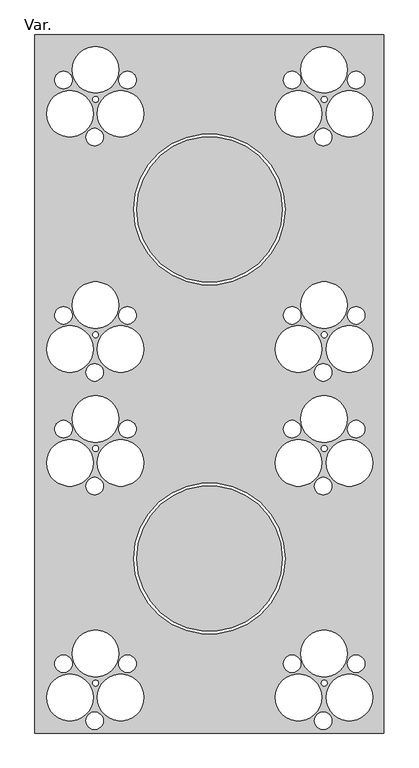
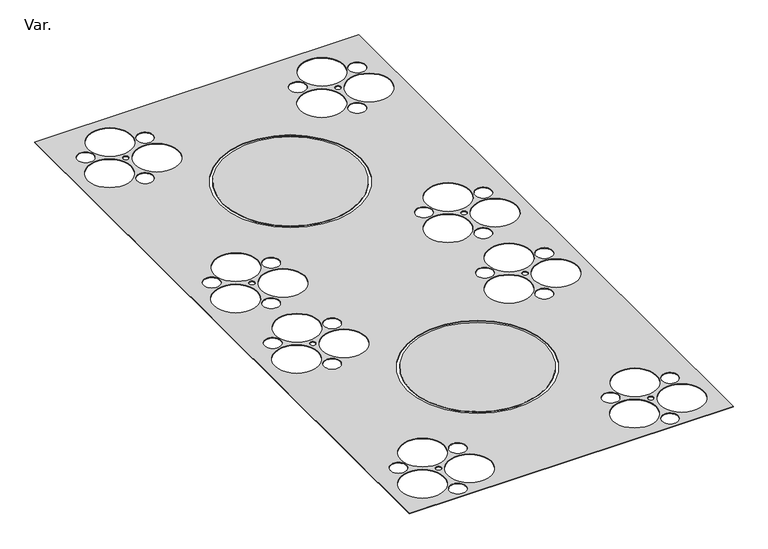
"""IFC4 building model written with IfcOpenShell, lengths in millimetres: proxy geometry, PavcoWavin_EquiposMecánicos_AquaCellNG : Var.."""

from ifc_helpers import new_model, si_unit, point, frame, frame_2d, origin, place, context, project, spatial, polyline, circle_curve, trimmed, segment, composite_curve, outline, extrude, source, transform, mapped, element, save


def var_9defbf0c(model_context):
    return source(origin(), model_context, "Body", "SweptSolid", [
        extrude(outline(polyline([(300.0, -600.0), (-300.0, -600.0), (-300.0, 600.0), (300.0, 600.0), (300.0, -600.0)]), holes=[composite_curve([segment(trimmed(circle_curve(frame_2d((-240.0, -538.8131351)), 40.0), [point((-280.0, -538.8131351))], [point((-200.0, -538.8131351))], True, "CARTESIAN"), True, "CONTINUOUS"), segment(trimmed(circle_curve(frame_2d((-240.0, -538.8131351)), 40.0), [point((-200.0, -538.8131351))], [point((-280.0, -538.8131351))], True, "CARTESIAN"), True, "CONTINUOUS")], self_intersect=False), composite_curve([segment(trimmed(circle_curve(frame_2d((-195.8861149, -463.2809715)), 40.0), [point((-235.8861149, -463.2809715))], [point((-155.8861149, -463.2809715))], True, "CARTESIAN"), True, "CONTINUOUS"), segment(trimmed(circle_curve(frame_2d((-195.8861149, -463.2809715)), 40.0), [point((-155.8861149, -463.2809715))], [point((-235.8861149, -463.2809715))], True, "CARTESIAN"), True, "CONTINUOUS")], self_intersect=False), composite_curve([segment(trimmed(circle_curve(frame_2d((-195.737496, -514.1421926)), 5.0), [point((-200.737496, -514.1421926))], [point((-190.737496, -514.1421926))], True, "CARTESIAN"), True, "CONTINUOUS"), segment(trimmed(circle_curve(frame_2d((-195.737496, -514.1421926)), 5.0), [point((-190.737496, -514.1421926))], [point((-200.737496, -514.1421926))], True, "CARTESIAN"), True, "CONTINUOUS")], self_intersect=False), composite_curve([segment(trimmed(circle_curve(frame_2d((152.9104182, -538.8131351)), 40.0), [point((112.9104182, -538.8131351))], [point((192.9104182, -538.8131351))], True, "CARTESIAN"), True, "CONTINUOUS"), segment(trimmed(circle_curve(frame_2d((152.9104182, -538.8131351)), 40.0), [point((192.9104182, -538.8131351))], [point((112.9104182, -538.8131351))], True, "CARTESIAN"), True, "CONTINUOUS")], self_intersect=False), composite_curve([segment(trimmed(circle_curve(frame_2d((197.0243033, -463.2809715)), 40.0), [point((157.0243033, -463.2809715))], [point((237.0243033, -463.2809715))], True, "CARTESIAN"), True, "CONTINUOUS"), segment(trimmed(circle_curve(frame_2d((197.0243033, -463.2809715)), 40.0), [point((237.0243033, -463.2809715))], [point((157.0243033, -463.2809715))], True, "CARTESIAN"), True, "CONTINUOUS")], self_intersect=False), composite_curve([segment(trimmed(circle_curve(frame_2d((197.1729222, -514.1421926)), 5.0), [point((192.1729222, -514.1421926))], [point((202.1729222, -514.1421926))], True, "CARTESIAN"), True, "CONTINUOUS"), segment(trimmed(circle_curve(frame_2d((197.1729222, -514.1421926)), 5.0), [point((202.1729222, -514.1421926))], [point((192.1729222, -514.1421926))], True, "CARTESIAN"), True, "CONTINUOUS")], self_intersect=False), composite_curve([segment(trimmed(circle_curve(frame_2d((-240.0, 464.4678365)), 40.0), [point((-280.0, 464.4678365))], [point((-200.0, 464.4678365))], True, "CARTESIAN"), True, "CONTINUOUS"), segment(trimmed(circle_curve(frame_2d((-240.0, 464.4678365)), 40.0), [point((-200.0, 464.4678365))], [point((-280.0, 464.4678365))], True, "CARTESIAN"), True, "CONTINUOUS")], self_intersect=False), composite_curve([segment(trimmed(circle_curve(frame_2d((-195.8861149, 540.0)), 40.0), [point((-235.8861149, 540.0))], [point((-155.8861149, 540.0))], True, "CARTESIAN"), True, "CONTINUOUS"), segment(trimmed(circle_curve(frame_2d((-195.8861149, 540.0)), 40.0), [point((-155.8861149, 540.0))], [point((-235.8861149, 540.0))], True, "CARTESIAN"), True, "CONTINUOUS")], self_intersect=False), composite_curve([segment(trimmed(circle_curve(frame_2d((-250.8207697, 522.4726436)), 15.0), [point((-265.8207697, 522.4726436))], [point((-235.8207697, 522.4726436))], True, "CARTESIAN"), True, "CONTINUOUS"), segment(trimmed(circle_curve(frame_2d((-250.8207697, 522.4726436)), 15.0), [point((-235.8207697, 522.4726436))], [point((-265.8207697, 522.4726436))], True, "CARTESIAN"), True, "CONTINUOUS")], self_intersect=False), composite_curve([segment(trimmed(circle_curve(frame_2d((-197.4130998, 424.4080745)), 15.0), [point((-212.4130998, 424.4080745))], [point((-182.4130998, 424.4080745))], True, "CARTESIAN"), True, "CONTINUOUS"), segment(trimmed(circle_curve(frame_2d((-197.4130998, 424.4080745)), 15.0), [point((-182.4130998, 424.4080745))], [point((-212.4130998, 424.4080745))], True, "CARTESIAN"), True, "CONTINUOUS")], self_intersect=False), composite_curve([segment(trimmed(circle_curve(frame_2d((-195.737496, 489.138779)), 5.0), [point((-200.737496, 489.138779))], [point((-190.737496, 489.138779))], True, "CARTESIAN"), True, "CONTINUOUS"), segment(trimmed(circle_curve(frame_2d((-195.737496, 489.138779)), 5.0), [point((-190.737496, 489.138779))], [point((-200.737496, 489.138779))], True, "CARTESIAN"), True, "CONTINUOUS")], self_intersect=False), composite_curve([segment(trimmed(circle_curve(frame_2d((152.9104182, 464.4678365)), 40.0), [point((112.9104182, 464.4678365))], [point((192.9104182, 464.4678365))], True, "CARTESIAN"), True, "CONTINUOUS"), segment(trimmed(circle_curve(frame_2d((152.9104182, 464.4678365)), 40.0), [point((192.9104182, 464.4678365))], [point((112.9104182, 464.4678365))], True, "CARTESIAN"), True, "CONTINUOUS")], self_intersect=False), composite_curve([segment(trimmed(circle_curve(frame_2d((197.0243033, 540.0)), 40.0), [point((157.0243033, 540.0))], [point((237.0243033, 540.0))], True, "CARTESIAN"), True, "CONTINUOUS"), segment(trimmed(circle_curve(frame_2d((197.0243033, 540.0)), 40.0), [point((237.0243033, 540.0))], [point((157.0243033, 540.0))], True, "CARTESIAN"), True, "CONTINUOUS")], self_intersect=False), composite_curve([segment(trimmed(circle_curve(frame_2d((197.1729222, 489.138779)), 5.0), [point((192.1729222, 489.138779))], [point((202.1729222, 489.138779))], True, "CARTESIAN"), True, "CONTINUOUS"), segment(trimmed(circle_curve(frame_2d((197.1729222, 489.138779)), 5.0), [point((202.1729222, 489.138779))], [point((192.1729222, 489.138779))], True, "CARTESIAN"), True, "CONTINUOUS")], self_intersect=False), composite_curve([segment(trimmed(circle_curve(frame_2d((-240.0, 60.0)), 40.0), [point((-280.0, 60.0))], [point((-200.0, 60.0))], True, "CARTESIAN"), True, "CONTINUOUS"), segment(trimmed(circle_curve(frame_2d((-240.0, 60.0)), 40.0), [point((-200.0, 60.0))], [point((-280.0, 60.0))], True, "CARTESIAN"), True, "CONTINUOUS")], self_intersect=False), composite_curve([segment(trimmed(circle_curve(frame_2d((-195.8861149, 135.5321635)), 40.0), [point((-235.8861149, 135.5321635))], [point((-155.8861149, 135.5321635))], True, "CARTESIAN"), True, "CONTINUOUS"), segment(trimmed(circle_curve(frame_2d((-195.8861149, 135.5321635)), 40.0), [point((-155.8861149, 135.5321635))], [point((-235.8861149, 135.5321635))], True, "CARTESIAN"), True, "CONTINUOUS")], self_intersect=False), composite_curve([segment(trimmed(circle_curve(frame_2d((-195.737496, 84.6709425)), 5.0), [point((-200.737496, 84.6709425))], [point((-190.737496, 84.6709425))], True, "CARTESIAN"), True, "CONTINUOUS"), segment(trimmed(circle_curve(frame_2d((-195.737496, 84.6709425)), 5.0), [point((-190.737496, 84.6709425))], [point((-200.737496, 84.6709425))], True, "CARTESIAN"), True, "CONTINUOUS")], self_intersect=False), composite_curve([segment(trimmed(circle_curve(frame_2d((152.9104182, 60.0)), 40.0), [point((112.9104182, 60.0))], [point((192.9104182, 60.0))], True, "CARTESIAN"), True, "CONTINUOUS"), segment(trimmed(circle_curve(frame_2d((152.9104182, 60.0)), 40.0), [point((192.9104182, 60.0))], [point((112.9104182, 60.0))], True, "CARTESIAN"), True, "CONTINUOUS")], self_intersect=False), composite_curve([segment(trimmed(circle_curve(frame_2d((197.0243033, 135.5321635)), 40.0), [point((157.0243033, 135.5321635))], [point((237.0243033, 135.5321635))], True, "CARTESIAN"), True, "CONTINUOUS"), segment(trimmed(circle_curve(frame_2d((197.0243033, 135.5321635)), 40.0), [point((237.0243033, 135.5321635))], [point((157.0243033, 135.5321635))], True, "CARTESIAN"), True, "CONTINUOUS")], self_intersect=False), composite_curve([segment(trimmed(circle_curve(frame_2d((197.1729222, 84.6709425)), 5.0), [point((192.1729222, 84.6709425))], [point((202.1729222, 84.6709425))], True, "CARTESIAN"), True, "CONTINUOUS"), segment(trimmed(circle_curve(frame_2d((197.1729222, 84.6709425)), 5.0), [point((202.1729222, 84.6709425))], [point((192.1729222, 84.6709425))], True, "CARTESIAN"), True, "CONTINUOUS")], self_intersect=False), composite_curve([segment(trimmed(circle_curve(frame_2d((-240.0, -135.5321635)), 40.0), [point((-280.0, -135.5321635))], [point((-200.0, -135.5321635))], True, "CARTESIAN"), True, "CONTINUOUS"), segment(trimmed(circle_curve(frame_2d((-240.0, -135.5321635)), 40.0), [point((-200.0, -135.5321635))], [point((-280.0, -135.5321635))], True, "CARTESIAN"), True, "CONTINUOUS")], self_intersect=False), composite_curve([segment(trimmed(circle_curve(frame_2d((-195.8861149, -60.0)), 40.0), [point((-235.8861149, -60.0))], [point((-155.8861149, -60.0))], True, "CARTESIAN"), True, "CONTINUOUS"), segment(trimmed(circle_curve(frame_2d((-195.8861149, -60.0)), 40.0), [point((-155.8861149, -60.0))], [point((-235.8861149, -60.0))], True, "CARTESIAN"), True, "CONTINUOUS")], self_intersect=False), composite_curve([segment(trimmed(circle_curve(frame_2d((-195.737496, -110.861221)), 5.0), [point((-200.737496, -110.861221))], [point((-190.737496, -110.861221))], True, "CARTESIAN"), True, "CONTINUOUS"), segment(trimmed(circle_curve(frame_2d((-195.737496, -110.861221)), 5.0), [point((-190.737496, -110.861221))], [point((-200.737496, -110.861221))], True, "CARTESIAN"), True, "CONTINUOUS")], self_intersect=False), composite_curve([segment(trimmed(circle_curve(frame_2d((152.9104182, -135.5321635)), 40.0), [point((112.9104182, -135.5321635))], [point((192.9104182, -135.5321635))], True, "CARTESIAN"), True, "CONTINUOUS"), segment(trimmed(circle_curve(frame_2d((152.9104182, -135.5321635)), 40.0), [point((192.9104182, -135.5321635))], [point((112.9104182, -135.5321635))], True, "CARTESIAN"), True, "CONTINUOUS")], self_intersect=False), composite_curve([segment(trimmed(circle_curve(frame_2d((197.0243033, -60.0)), 40.0), [point((157.0243033, -60.0))], [point((237.0243033, -60.0))], True, "CARTESIAN"), True, "CONTINUOUS"), segment(trimmed(circle_curve(frame_2d((197.0243033, -60.0)), 40.0), [point((237.0243033, -60.0))], [point((157.0243033, -60.0))], True, "CARTESIAN"), True, "CONTINUOUS")], self_intersect=False), composite_curve([segment(trimmed(circle_curve(frame_2d((197.1729222, -110.861221)), 5.0), [point((192.1729222, -110.861221))], [point((202.1729222, -110.861221))], True, "CARTESIAN"), True, "CONTINUOUS"), segment(trimmed(circle_curve(frame_2d((197.1729222, -110.861221)), 5.0), [point((202.1729222, -110.861221))], [point((192.1729222, -110.861221))], True, "CARTESIAN"), True, "CONTINUOUS")], self_intersect=False), composite_curve([segment(trimmed(circle_curve(frame_2d((-140.8207697, 522.4726436)), 15.0), [point((-155.8207697, 522.4726436))], [point((-125.8207697, 522.4726436))], True, "CARTESIAN"), True, "CONTINUOUS"), segment(trimmed(circle_curve(frame_2d((-140.8207697, 522.4726436)), 15.0), [point((-125.8207697, 522.4726436))], [point((-155.8207697, 522.4726436))], True, "CARTESIAN"), True, "CONTINUOUS")], self_intersect=False), composite_curve([segment(trimmed(circle_curve(frame_2d((-152.5, 464.4678365)), 40.0), [point((-192.5, 464.4678365))], [point((-112.5, 464.4678365))], True, "CARTESIAN"), True, "CONTINUOUS"), segment(trimmed(circle_curve(frame_2d((-152.5, 464.4678365)), 40.0), [point((-112.5, 464.4678365))], [point((-192.5, 464.4678365))], True, "CARTESIAN"), True, "CONTINUOUS")], self_intersect=False), composite_curve([segment(trimmed(circle_curve(frame_2d((142.0896485, 522.4726436)), 15.0), [point((127.0896485, 522.4726436))], [point((157.0896485, 522.4726436))], True, "CARTESIAN"), True, "CONTINUOUS"), segment(trimmed(circle_curve(frame_2d((142.0896485, 522.4726436)), 15.0), [point((157.0896485, 522.4726436))], [point((127.0896485, 522.4726436))], True, "CARTESIAN"), True, "CONTINUOUS")], self_intersect=False), composite_curve([segment(trimmed(circle_curve(frame_2d((195.4973184, 424.4080745)), 15.0), [point((180.4973184, 424.4080745))], [point((210.4973184, 424.4080745))], True, "CARTESIAN"), True, "CONTINUOUS"), segment(trimmed(circle_curve(frame_2d((195.4973184, 424.4080745)), 15.0), [point((210.4973184, 424.4080745))], [point((180.4973184, 424.4080745))], True, "CARTESIAN"), True, "CONTINUOUS")], self_intersect=False), composite_curve([segment(trimmed(circle_curve(frame_2d((252.0896485, 522.4726436)), 15.0), [point((237.0896485, 522.4726436))], [point((267.0896485, 522.4726436))], True, "CARTESIAN"), True, "CONTINUOUS"), segment(trimmed(circle_curve(frame_2d((252.0896485, 522.4726436)), 15.0), [point((267.0896485, 522.4726436))], [point((237.0896485, 522.4726436))], True, "CARTESIAN"), True, "CONTINUOUS")], self_intersect=False), composite_curve([segment(trimmed(circle_curve(frame_2d((240.4104182, 464.4678365)), 40.0), [point((200.4104182, 464.4678365))], [point((280.4104182, 464.4678365))], True, "CARTESIAN"), True, "CONTINUOUS"), segment(trimmed(circle_curve(frame_2d((240.4104182, 464.4678365)), 40.0), [point((280.4104182, 464.4678365))], [point((200.4104182, 464.4678365))], True, "CARTESIAN"), True, "CONTINUOUS")], self_intersect=False), composite_curve([segment(trimmed(circle_curve(frame_2d((142.0896485, 118.0048072)), 15.0), [point((127.0896485, 118.0048072))], [point((157.0896485, 118.0048072))], True, "CARTESIAN"), True, "CONTINUOUS"), segment(trimmed(circle_curve(frame_2d((142.0896485, 118.0048072)), 15.0), [point((157.0896485, 118.0048072))], [point((127.0896485, 118.0048072))], True, "CARTESIAN"), True, "CONTINUOUS")], self_intersect=False), composite_curve([segment(trimmed(circle_curve(frame_2d((195.4973184, 19.940238)), 15.0), [point((180.4973184, 19.940238))], [point((210.4973184, 19.940238))], True, "CARTESIAN"), True, "CONTINUOUS"), segment(trimmed(circle_curve(frame_2d((195.4973184, 19.940238)), 15.0), [point((210.4973184, 19.940238))], [point((180.4973184, 19.940238))], True, "CARTESIAN"), True, "CONTINUOUS")], self_intersect=False), composite_curve([segment(trimmed(circle_curve(frame_2d((252.0896485, 118.0048072)), 15.0), [point((237.0896485, 118.0048072))], [point((267.0896485, 118.0048072))], True, "CARTESIAN"), True, "CONTINUOUS"), segment(trimmed(circle_curve(frame_2d((252.0896485, 118.0048072)), 15.0), [point((267.0896485, 118.0048072))], [point((237.0896485, 118.0048072))], True, "CARTESIAN"), True, "CONTINUOUS")], self_intersect=False), composite_curve([segment(trimmed(circle_curve(frame_2d((240.4104182, 60.0)), 40.0), [point((200.4104182, 60.0))], [point((280.4104182, 60.0))], True, "CARTESIAN"), True, "CONTINUOUS"), segment(trimmed(circle_curve(frame_2d((240.4104182, 60.0)), 40.0), [point((280.4104182, 60.0))], [point((200.4104182, 60.0))], True, "CARTESIAN"), True, "CONTINUOUS")], self_intersect=False), composite_curve([segment(trimmed(circle_curve(frame_2d((142.0896485, -77.5273564)), 15.0), [point((127.0896485, -77.5273564))], [point((157.0896485, -77.5273564))], True, "CARTESIAN"), True, "CONTINUOUS"), segment(trimmed(circle_curve(frame_2d((142.0896485, -77.5273564)), 15.0), [point((157.0896485, -77.5273564))], [point((127.0896485, -77.5273564))], True, "CARTESIAN"), True, "CONTINUOUS")], self_intersect=False), composite_curve([segment(trimmed(circle_curve(frame_2d((195.4973184, -175.5919255)), 15.0), [point((180.4973184, -175.5919255))], [point((210.4973184, -175.5919255))], True, "CARTESIAN"), True, "CONTINUOUS"), segment(trimmed(circle_curve(frame_2d((195.4973184, -175.5919255)), 15.0), [point((210.4973184, -175.5919255))], [point((180.4973184, -175.5919255))], True, "CARTESIAN"), True, "CONTINUOUS")], self_intersect=False), composite_curve([segment(trimmed(circle_curve(frame_2d((252.0896485, -77.5273564)), 15.0), [point((237.0896485, -77.5273564))], [point((267.0896485, -77.5273564))], True, "CARTESIAN"), True, "CONTINUOUS"), segment(trimmed(circle_curve(frame_2d((252.0896485, -77.5273564)), 15.0), [point((267.0896485, -77.5273564))], [point((237.0896485, -77.5273564))], True, "CARTESIAN"), True, "CONTINUOUS")], self_intersect=False), composite_curve([segment(trimmed(circle_curve(frame_2d((240.4104182, -135.5321635)), 40.0), [point((200.4104182, -135.5321635))], [point((280.4104182, -135.5321635))], True, "CARTESIAN"), True, "CONTINUOUS"), segment(trimmed(circle_curve(frame_2d((240.4104182, -135.5321635)), 40.0), [point((280.4104182, -135.5321635))], [point((200.4104182, -135.5321635))], True, "CARTESIAN"), True, "CONTINUOUS")], self_intersect=False), composite_curve([segment(trimmed(circle_curve(frame_2d((142.0896485, -480.8083279)), 15.0), [point((127.0896485, -480.8083279))], [point((157.0896485, -480.8083279))], True, "CARTESIAN"), True, "CONTINUOUS"), segment(trimmed(circle_curve(frame_2d((142.0896485, -480.8083279)), 15.0), [point((157.0896485, -480.8083279))], [point((127.0896485, -480.8083279))], True, "CARTESIAN"), True, "CONTINUOUS")], self_intersect=False), composite_curve([segment(trimmed(circle_curve(frame_2d((195.4973184, -578.872897)), 15.0), [point((180.4973184, -578.872897))], [point((210.4973184, -578.872897))], True, "CARTESIAN"), True, "CONTINUOUS"), segment(trimmed(circle_curve(frame_2d((195.4973184, -578.872897)), 15.0), [point((210.4973184, -578.872897))], [point((180.4973184, -578.872897))], True, "CARTESIAN"), True, "CONTINUOUS")], self_intersect=False), composite_curve([segment(trimmed(circle_curve(frame_2d((252.0896485, -480.8083279)), 15.0), [point((237.0896485, -480.8083279))], [point((267.0896485, -480.8083279))], True, "CARTESIAN"), True, "CONTINUOUS"), segment(trimmed(circle_curve(frame_2d((252.0896485, -480.8083279)), 15.0), [point((267.0896485, -480.8083279))], [point((237.0896485, -480.8083279))], True, "CARTESIAN"), True, "CONTINUOUS")], self_intersect=False), composite_curve([segment(trimmed(circle_curve(frame_2d((240.4104182, -538.8131351)), 40.0), [point((200.4104182, -538.8131351))], [point((280.4104182, -538.8131351))], True, "CARTESIAN"), True, "CONTINUOUS"), segment(trimmed(circle_curve(frame_2d((240.4104182, -538.8131351)), 40.0), [point((280.4104182, -538.8131351))], [point((200.4104182, -538.8131351))], True, "CARTESIAN"), True, "CONTINUOUS")], self_intersect=False), composite_curve([segment(trimmed(circle_curve(frame_2d((-250.8207697, -480.8083279)), 15.0), [point((-265.8207697, -480.8083279))], [point((-235.8207697, -480.8083279))], True, "CARTESIAN"), True, "CONTINUOUS"), segment(trimmed(circle_curve(frame_2d((-250.8207697, -480.8083279)), 15.0), [point((-235.8207697, -480.8083279))], [point((-265.8207697, -480.8083279))], True, "CARTESIAN"), True, "CONTINUOUS")], self_intersect=False), composite_curve([segment(trimmed(circle_curve(frame_2d((-197.4130998, -578.872897)), 15.0), [point((-212.4130998, -578.872897))], [point((-182.4130998, -578.872897))], True, "CARTESIAN"), True, "CONTINUOUS"), segment(trimmed(circle_curve(frame_2d((-197.4130998, -578.872897)), 15.0), [point((-182.4130998, -578.872897))], [point((-212.4130998, -578.872897))], True, "CARTESIAN"), True, "CONTINUOUS")], self_intersect=False), composite_curve([segment(trimmed(circle_curve(frame_2d((-140.8207697, -480.8083279)), 15.0), [point((-155.8207697, -480.8083279))], [point((-125.8207697, -480.8083279))], True, "CARTESIAN"), True, "CONTINUOUS"), segment(trimmed(circle_curve(frame_2d((-140.8207697, -480.8083279)), 15.0), [point((-125.8207697, -480.8083279))], [point((-155.8207697, -480.8083279))], True, "CARTESIAN"), True, "CONTINUOUS")], self_intersect=False), composite_curve([segment(trimmed(circle_curve(frame_2d((-152.5, -538.8131351)), 40.0), [point((-192.5, -538.8131351))], [point((-112.5, -538.8131351))], True, "CARTESIAN"), True, "CONTINUOUS"), segment(trimmed(circle_curve(frame_2d((-152.5, -538.8131351)), 40.0), [point((-112.5, -538.8131351))], [point((-192.5, -538.8131351))], True, "CARTESIAN"), True, "CONTINUOUS")], self_intersect=False), composite_curve([segment(trimmed(circle_curve(frame_2d((-250.8207697, -77.5273564)), 15.0), [point((-265.8207697, -77.5273564))], [point((-235.8207697, -77.5273564))], True, "CARTESIAN"), True, "CONTINUOUS"), segment(trimmed(circle_curve(frame_2d((-250.8207697, -77.5273564)), 15.0), [point((-235.8207697, -77.5273564))], [point((-265.8207697, -77.5273564))], True, "CARTESIAN"), True, "CONTINUOUS")], self_intersect=False), composite_curve([segment(trimmed(circle_curve(frame_2d((-197.4130998, -175.5919255)), 15.0), [point((-212.4130998, -175.5919255))], [point((-182.4130998, -175.5919255))], True, "CARTESIAN"), True, "CONTINUOUS"), segment(trimmed(circle_curve(frame_2d((-197.4130998, -175.5919255)), 15.0), [point((-182.4130998, -175.5919255))], [point((-212.4130998, -175.5919255))], True, "CARTESIAN"), True, "CONTINUOUS")], self_intersect=False), composite_curve([segment(trimmed(circle_curve(frame_2d((-140.8207697, -77.5273564)), 15.0), [point((-155.8207697, -77.5273564))], [point((-125.8207697, -77.5273564))], True, "CARTESIAN"), True, "CONTINUOUS"), segment(trimmed(circle_curve(frame_2d((-140.8207697, -77.5273564)), 15.0), [point((-125.8207697, -77.5273564))], [point((-155.8207697, -77.5273564))], True, "CARTESIAN"), True, "CONTINUOUS")], self_intersect=False), composite_curve([segment(trimmed(circle_curve(frame_2d((-152.5, -135.5321635)), 40.0), [point((-192.5, -135.5321635))], [point((-112.5, -135.5321635))], True, "CARTESIAN"), True, "CONTINUOUS"), segment(trimmed(circle_curve(frame_2d((-152.5, -135.5321635)), 40.0), [point((-112.5, -135.5321635))], [point((-192.5, -135.5321635))], True, "CARTESIAN"), True, "CONTINUOUS")], self_intersect=False), composite_curve([segment(trimmed(circle_curve(frame_2d((-250.8207697, 118.0048072)), 15.0), [point((-265.8207697, 118.0048072))], [point((-235.8207697, 118.0048072))], True, "CARTESIAN"), True, "CONTINUOUS"), segment(trimmed(circle_curve(frame_2d((-250.8207697, 118.0048072)), 15.0), [point((-235.8207697, 118.0048072))], [point((-265.8207697, 118.0048072))], True, "CARTESIAN"), True, "CONTINUOUS")], self_intersect=False), composite_curve([segment(trimmed(circle_curve(frame_2d((-197.4130998, 19.940238)), 15.0), [point((-212.4130998, 19.940238))], [point((-182.4130998, 19.940238))], True, "CARTESIAN"), True, "CONTINUOUS"), segment(trimmed(circle_curve(frame_2d((-197.4130998, 19.940238)), 15.0), [point((-182.4130998, 19.940238))], [point((-212.4130998, 19.940238))], True, "CARTESIAN"), True, "CONTINUOUS")], self_intersect=False), composite_curve([segment(trimmed(circle_curve(frame_2d((-140.8207697, 118.0048072)), 15.0), [point((-155.8207697, 118.0048072))], [point((-125.8207697, 118.0048072))], True, "CARTESIAN"), True, "CONTINUOUS"), segment(trimmed(circle_curve(frame_2d((-140.8207697, 118.0048072)), 15.0), [point((-125.8207697, 118.0048072))], [point((-155.8207697, 118.0048072))], True, "CARTESIAN"), True, "CONTINUOUS")], self_intersect=False), composite_curve([segment(trimmed(circle_curve(frame_2d((-152.5, 60.0)), 40.0), [point((-192.5, 60.0))], [point((-112.5, 60.0))], True, "CARTESIAN"), True, "CONTINUOUS"), segment(trimmed(circle_curve(frame_2d((-152.5, 60.0)), 40.0), [point((-112.5, 60.0))], [point((-192.5, 60.0))], True, "CARTESIAN"), True, "CONTINUOUS")], self_intersect=False), composite_curve([segment(trimmed(circle_curve(frame_2d((0.0, 300.0)), 130.0), [point((-130.0, 300.0))], [point((130.0, 300.0))], True, "CARTESIAN"), True, "CONTINUOUS"), segment(trimmed(circle_curve(frame_2d((0.0, 300.0)), 130.0), [point((130.0, 300.0))], [point((-130.0, 300.0))], True, "CARTESIAN"), True, "CONTINUOUS")], self_intersect=False), composite_curve([segment(trimmed(circle_curve(frame_2d((0.0, -300.0)), 130.0), [point((-130.0, -300.0))], [point((130.0, -300.0))], True, "CARTESIAN"), True, "CONTINUOUS"), segment(trimmed(circle_curve(frame_2d((0.0, -300.0)), 130.0), [point((130.0, -300.0))], [point((-130.0, -300.0))], True, "CARTESIAN"), True, "CONTINUOUS")], self_intersect=False)]), frame((0.0, 0.0, 399.0), z_axis=(0.0, 0.0, 1.0), x_axis=(1.0, 0.0, 0.0)), (0.0, 0.0, 1.0), 1.0),
        extrude(outline(composite_curve([segment(trimmed(circle_curve(frame_2d((0.0, 300.0)), 125.0), [point((-125.0, 300.0))], [point((125.0, 300.0))], False, "CARTESIAN"), True, "CONTINUOUS"), segment(trimmed(circle_curve(frame_2d((0.0, 300.0)), 125.0), [point((125.0, 300.0))], [point((-125.0, 300.0))], False, "CARTESIAN"), True, "CONTINUOUS")], self_intersect=False)), frame((0.0, 0.0, 399.0), z_axis=(0.0, 0.0, 1.0), x_axis=(1.0, 0.0, 0.0)), (0.0, 0.0, 1.0), 1.0),
        extrude(outline(composite_curve([segment(trimmed(circle_curve(frame_2d((0.0, -300.0)), 125.0), [point((-125.0, -300.0))], [point((125.0, -300.0))], False, "CARTESIAN"), True, "CONTINUOUS"), segment(trimmed(circle_curve(frame_2d((0.0, -300.0)), 125.0), [point((125.0, -300.0))], [point((-125.0, -300.0))], False, "CARTESIAN"), True, "CONTINUOUS")], self_intersect=False)), frame((0.0, 0.0, 399.0), z_axis=(0.0, 0.0, 1.0), x_axis=(1.0, 0.0, 0.0)), (0.0, 0.0, 1.0), 1.0),
    ])


if __name__ == "__main__":
    model = new_model("IFC4")
    model_context = context("Model", 3, world=origin())
    ifc_project = project(units=[si_unit("LENGTHUNIT", "METRE", prefix="MILLI")], contexts=[model_context])
    site = spatial("IfcSite", under=ifc_project)
    building = spatial("IfcBuilding", under=site)
    placement = place(None, origin())
    var_shape = var_9defbf0c(model_context)
    element("IfcBuildingElementProxy", 1, Name="PavcoWavin_EquiposMecánicos_AquaCellNG : Var.", ObjectType="PavcoWavin_EquiposMecánicos_AquaCellNG : Var.", at=placement, inside=building, context=model_context, shape_type="MappedRepresentation", body=[
        mapped(var_shape, transform((0.0, 0.0, 0.0), x_axis=(1.0, 0.0, 0.0), y_axis=(0.0, 1.0, 0.0), z_axis=(0.0, 0.0, 1.0))),
    ])
    save(model, "model.ifc")
